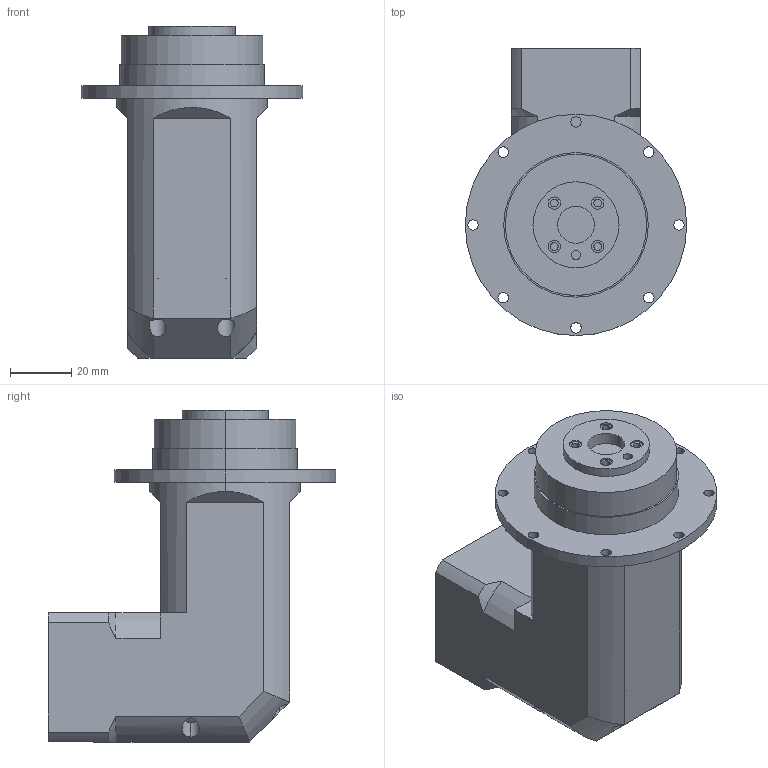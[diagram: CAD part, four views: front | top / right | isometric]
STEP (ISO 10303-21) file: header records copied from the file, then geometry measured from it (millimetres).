
FILE_DESCRIPTION (( 'STEP AP214' ), '1' );
FILE_NAME ('EVT047-L2-P1 8-30-45-M3.STEP', '2025-03-01T01:39:09', ( '微软用户' ), ( '微软中国' ), 'SwSTEP 2.0', 'SolidWorks 2021', '' );
FILE_SCHEMA (( 'AUTOMOTIVE_DESIGN' ));
Length unit declared in the file: millimetre
Products named in the file (1): EVT047-L2-P1 8-30-45-M3
Bounding box: 72 x 93.5 x 108 mm (x, y, z)
Volume: 238069.7 mm3; surface area: 33967.7 mm2
Topology: 1 solids, 11 shells, 180 faces, 402 edges, 260 vertices
Faces by surface type: cylinder 115, plane 54, cone 11
Entity records: 5485 total; most frequent: CARTESIAN_POINT 1398, DIRECTION 889, ORIENTED_EDGE 790, EDGE_CURVE 395, AXIS2_PLACEMENT_3D 369, VERTEX_POINT 260, EDGE_LOOP 219, CIRCLE 188
